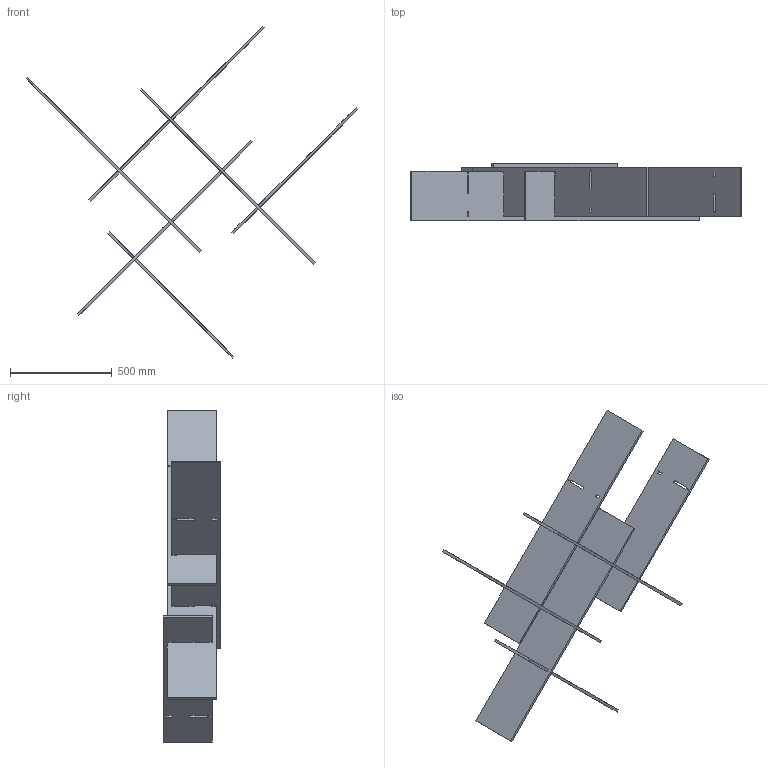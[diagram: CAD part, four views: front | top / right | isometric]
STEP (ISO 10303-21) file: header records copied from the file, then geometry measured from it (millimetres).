
FILE_DESCRIPTION(/* description */ (''),/* implementation_level */ '2;1');
FILE_NAME(/* name */ 'Y:\Design and Engineering\MaterialLogiq\CAD ASSETS\MASTER\GRAFFLE\WEB ASSETS\PET GRAFFLE_4x4_FLAT_SQUARE.stp',/* time_stamp */ '2023-11-01T14:13:22-05:00',/* author */ ('Grant Baker'),/* organization */ (''),/* preprocessor_version */ 'ST-DEVELOPER v19',/* originating_system */ 'Autodesk Inventor 2023',/* authorisation */ '');
FILE_SCHEMA (('AUTOMOTIVE_DESIGN { 1 0 10303 214 3 1 1 }'));
Length unit declared in the file: inch
Products named in the file (4): PET GRAFFLE_4x4_FLAT_SQUARE; PET GRAFFLE_A_4x4_FLAT_SQUARE; PET GRAFFLE_B_4x4_FLAT_SQUARE; PET GRAFFLE_LINK_4x4_FLAT_SQUARE
Assembly tree (6 placements, depth 2):
  PET GRAFFLE_4x4_FLAT_SQUARE
    PET GRAFFLE_LINK_4x4_FLAT_SQUARE  x2
    PET GRAFFLE_A_4x4_FLAT_SQUARE  x2
    PET GRAFFLE_B_4x4_FLAT_SQUARE  x2
Bounding box: 1629.99 x 282.95 x 1629.99 mm (x, y, z)
Volume: 19006478.3 mm3; surface area: 3372613.9 mm2
Topology: 6 solids, 6 shells, 228 faces, 648 edges, 432 vertices
Faces by surface type: plane 228
Entity records: 3831 total; most frequent: CARTESIAN_POINT 664, ORIENTED_EDGE 648, DIRECTION 572, LINE 324, VECTOR 324, EDGE_CURVE 324, VERTEX_POINT 216, EDGE_LOOP 130
